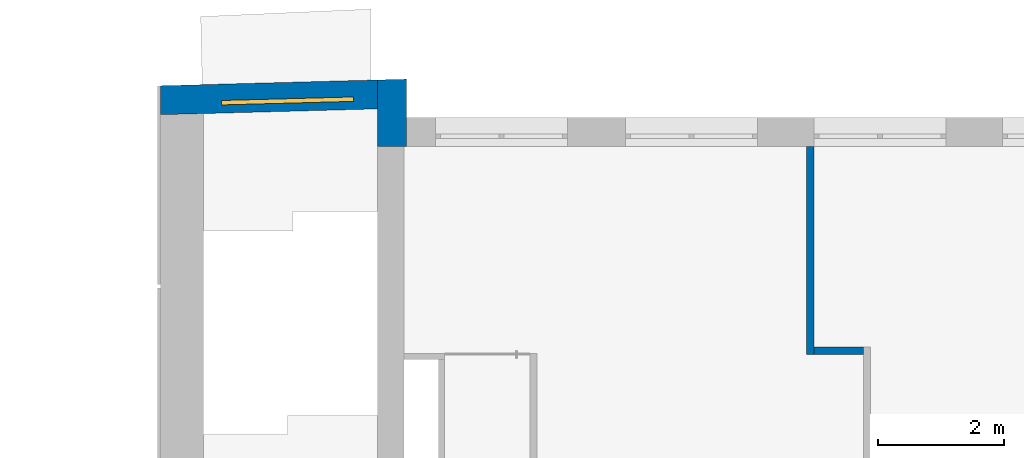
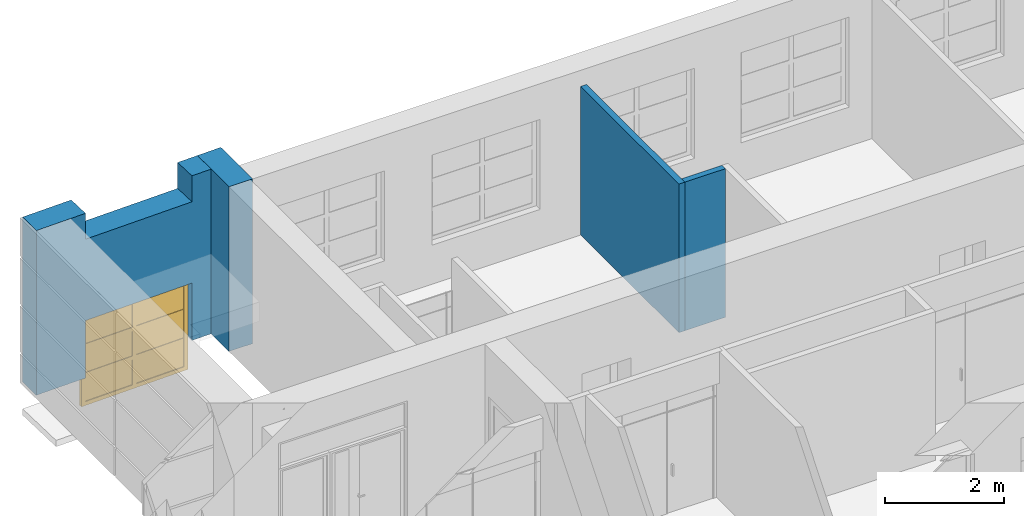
# One storey, part 45 of 66: 4 walls, 1 window, 3 openings.
"""IFC2X3 building model written with IfcOpenShell, lengths in millimetres."""

from ifc_helpers import new_model, entity, si_unit, converted_unit, derived_unit, direction, frame, frame_2d, origin, place, context, subcontext, project, spatial, polyline, rectangle, outline, extrude, face_set, surface_model, source, transform, mapped, material, material_list, layer, layer_set, layer_usage, type_object, type_shapes, element, fill, save


model = new_model("IFC2X3")

# Units and contexts
model_context = context("Model", 3, precision=0.01, world=origin(), true_north=direction((6.12303176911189e-17, 1.0)))
body_context = subcontext(model_context, "Body", "Model", "MODEL_VIEW")
ifc_project = project(units=[si_unit("LENGTHUNIT", "METRE", prefix="MILLI"), si_unit("AREAUNIT", "SQUARE_METRE"), si_unit("VOLUMEUNIT", "CUBIC_METRE"), converted_unit("PLANEANGLEUNIT", "DEGREE", entity("IfcRatioMeasure", 0.0174532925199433), si_unit("PLANEANGLEUNIT", "RADIAN"), dimensions=[0, 0, 0, 0, 0, 0, 0]), si_unit("MASSUNIT", "GRAM", prefix="KILO"), derived_unit("MASSDENSITYUNIT", [(si_unit("MASSUNIT", "GRAM", prefix="KILO"), 1), (si_unit("LENGTHUNIT", "METRE"), -3)]), si_unit("TIMEUNIT", "SECOND"), si_unit("FREQUENCYUNIT", "HERTZ"), si_unit("THERMODYNAMICTEMPERATUREUNIT", "DEGREE_CELSIUS"), derived_unit("THERMALTRANSMITTANCEUNIT", [(si_unit("MASSUNIT", "GRAM", prefix="KILO"), 1), (si_unit("THERMODYNAMICTEMPERATUREUNIT", "KELVIN"), -1), (si_unit("TIMEUNIT", "SECOND"), -3)]), derived_unit("VOLUMETRICFLOWRATEUNIT", [(si_unit("LENGTHUNIT", "METRE"), 3), (si_unit("TIMEUNIT", "SECOND"), -1)]), si_unit("ELECTRICCURRENTUNIT", "AMPERE"), si_unit("ELECTRICVOLTAGEUNIT", "VOLT"), si_unit("POWERUNIT", "WATT"), si_unit("FORCEUNIT", "NEWTON", prefix="KILO"), si_unit("ILLUMINANCEUNIT", "LUX"), si_unit("LUMINOUSFLUXUNIT", "LUMEN"), si_unit("LUMINOUSINTENSITYUNIT", "CANDELA"), derived_unit("USERDEFINED", [(si_unit("MASSUNIT", "GRAM", prefix="KILO"), -1), (si_unit("LENGTHUNIT", "METRE"), -2), (si_unit("TIMEUNIT", "SECOND"), 3), (si_unit("LUMINOUSFLUXUNIT", "LUMEN"), 1)]), derived_unit("LINEARVELOCITYUNIT", [(si_unit("LENGTHUNIT", "METRE"), 1), (si_unit("TIMEUNIT", "SECOND"), -1)]), si_unit("PRESSUREUNIT", "PASCAL"), derived_unit("USERDEFINED", [(si_unit("LENGTHUNIT", "METRE"), -2), (si_unit("MASSUNIT", "GRAM", prefix="KILO"), 1), (si_unit("TIMEUNIT", "SECOND"), -2)])], contexts=[model_context])

# Site, building, storey
site_placement = place(None, frame((-151.875543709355, 2715.0, 0.0)))
site = spatial("IfcSite", under=ifc_project, at=site_placement, Name="Surface", CompositionType="ELEMENT")
building_placement = place(site_placement, origin())
building = spatial("IfcBuilding", under=site, at=building_placement, CompositionType="ELEMENT")
storey_placement = place(building_placement, frame((0.0, 0.0, 3350.0)))
storey = spatial("IfcBuildingStorey", under=building, at=storey_placement, Name="2 korrus", CompositionType="ELEMENT", Elevation=3350.00000000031)

# Wall, openings, window
ifc_material_1 = material(Name="Brick, Common")
ifc_layer_1 = layer(ifc_material_1, 440.0)
ifc_material_2 = material(Name="__Kips GN13_tava")
ifc_layer_2 = layer(ifc_material_2, 20.0)
ifc_layer_set_1 = layer_set([ifc_layer_1, ifc_layer_2], Name="Basic Wall:VS-1")
ifc_layer_usage_1 = layer_usage(ifc_layer_set_1, "AXIS2", "NEGATIVE", 230.0)
wall_type_1 = type_object("IfcWallType", Name="Basic Wall:VS-1", PredefinedType="STANDARD", material=ifc_layer_set_1)
wall_1_placement = place(storey_placement, frame((1084.82025900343, 12886.4674488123, 0.0), z_axis=(0.0, 0.0, 1.0), x_axis=(0.999638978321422, 0.0268684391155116, 0.0)))
wall_1 = element("IfcWallStandardCase", 1, at=wall_1_placement, inside=storey, type_object=wall_type_1, material=ifc_layer_usage_1, Name="SEIN - 004", ObjectType="Basic Wall:VS-1", context=body_context, shape_type="SweptSolid", body=[
    extrude(outline(polyline([(3462.68398482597, 230.0), (12.363945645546, 230.0), (0.0, -230.0), (3450.32003918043, -230.0), (3462.68398482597, 230.0)])), origin(), (0.0, 0.0, 1.0), 3380.43203354),
])
opening_1_placement = place(wall_1_placement, origin())
element("IfcOpeningElement", 2, at=opening_1_placement, cuts=wall_1, Name="SEIN - 004", ObjectType="Opening", context=body_context, shape_type="SweptSolid", body=[
    extrude(rectangle(XDim=1850.0, YDim=2100.0, at=frame_2d((-5.11590769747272e-13, 0.0), x_axis=(1.0, 0.0))), frame((2022.05100957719, -490.0, 3773.03609848), z_axis=(0.0, 1.0, 0.0), x_axis=(0.0, 0.0, 1.0)), (0.0, 0.0, 1.0), 1180.0),
])
opening_2_placement = place(wall_1_placement, origin())
element("IfcOpeningElement", 3, at=opening_2_placement, cuts=wall_1, Name="SEIN - 004", ObjectType="Opening", context=body_context, shape_type="SweptSolid", body=[
    extrude(rectangle(XDim=1850.0, YDim=2100.0, at=frame_2d((5.6843418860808e-13, -3.41060513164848e-13), x_axis=(1.0, 0.0))), frame((2022.05100957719, -695.9, 3773.036098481), z_axis=(0.0, 1.0, 0.0), x_axis=(0.0, 0.0, -1.0)), (0.0, 0.0, 1.0), 1393.8),
])
opening_3_placement = place(wall_1_placement, frame((-1430.66788143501, -12852.6677276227, 0.0), z_axis=(0.0, 0.0, 1.0), x_axis=(0.999638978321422, -0.0268684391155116, 0.0)))
opening_3 = element("IfcOpeningElement", 4, at=opening_3_placement, cuts=wall_1, Name="SEIN - 004", ObjectType="Opening", context=body_context, shape_type="SweptSolid", body=[
    extrude(rectangle(XDim=1850.0, YDim=2100.0, at=frame_2d((2.8421709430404e-13, 1.13686837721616e-13), x_axis=(1.0, 0.0))), frame((3124.83901111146, 12245.1480382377, 254.53481674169), z_axis=(-0.0268684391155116, 0.999638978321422, 0.0), x_axis=(0.0, 0.0, -1.0)), (0.0, 0.0, 1.0), 1393.8),
])
ifc_material_3 = material(Name="Paint - Titanium White")
ifc_material_4 = material(Name="Paint - Dark Gray")
ifc_material_5 = material(Name="Glass - Clear Fast")
ifc_material_list_1 = material_list([ifc_material_3, ifc_material_4, ifc_material_5])
ifc_material_list_2 = material_list([ifc_material_3, ifc_material_4, ifc_material_5])
window_style = type_object("IfcWindowStyle", Name="Aken_1850x2100", ConstructionType="NOTDEFINED", OperationType="DOUBLE_PANEL_VERTICAL", ParameterTakesPrecedence=False, Sizeable=False, material=ifc_material_list_2)
shared_shape = source(origin(), body_context, "Body", "SurfaceModel", [
    surface_model("IfcFaceBasedSurfaceModel", [(80.0, 727.9, 1770.0), (80.0, 772.9, 1770.0), (0.0, 772.9, 1770.0), (0.0, 727.9, 1770.0), (80.0, 727.9, 80.0), (80.0, 772.9, 80.0), (80.0, 772.9, 1770.0), (80.0, 727.9, 1770.0), (80.0, 772.9, 1770.0), (80.0, 772.9, 80.0), (0.0, 772.9, 80.0), (0.0, 772.9, 1770.0), (0.0, 727.9, 1770.0), (0.0, 772.9, 1770.0), (0.0, 772.9, 80.0), (0.0, 727.9, 80.0), (80.0, 727.9, 1770.0), (0.0, 727.9, 1770.0), (0.0, 727.9, 80.0), (80.0, 727.9, 80.0), (0.0, 727.9, 80.0), (0.0, 772.9, 80.0), (80.0, 772.9, 80.0), (80.0, 727.9, 80.0), (2020.0, 727.9, 80.0), (2020.0, 772.9, 80.0), (2100.0, 772.9, 80.0), (2100.0, 727.9, 80.0), (2020.0, 727.9, 1770.0), (2020.0, 772.9, 1770.0), (2020.0, 772.9, 80.0), (2020.0, 727.9, 80.0), (2020.0, 772.9, 80.0), (2020.0, 772.9, 1770.0), (2100.0, 772.9, 1770.0), (2100.0, 772.9, 80.0), (2100.0, 727.9, 80.0), (2100.0, 772.9, 80.0), (2100.0, 772.9, 1770.0), (2100.0, 727.9, 1770.0), (2020.0, 727.9, 80.0), (2100.0, 727.9, 80.0), (2100.0, 727.9, 1770.0), (2020.0, 727.9, 1770.0), (2100.0, 727.9, 1770.0), (2100.0, 772.9, 1770.0), (2020.0, 772.9, 1770.0), (2020.0, 727.9, 1770.0), (1010.0, 727.9, 80.0), (1010.0, 772.9, 80.0), (1090.0, 772.9, 80.0), (1090.0, 727.9, 80.0), (1010.0, 727.9, 1770.0), (1010.0, 772.9, 1770.0), (1010.0, 772.9, 80.0), (1010.0, 727.9, 80.0), (1010.0, 772.9, 80.0), (1010.0, 772.9, 1770.0), (1090.0, 772.9, 1770.0), (1090.0, 772.9, 80.0), (1090.0, 727.9, 80.0), (1090.0, 772.9, 80.0), (1090.0, 772.9, 1770.0), (1090.0, 727.9, 1770.0), (1010.0, 727.9, 80.0), (1090.0, 727.9, 80.0), (1090.0, 727.9, 1770.0), (1010.0, 727.9, 1770.0), (1090.0, 727.9, 1770.0), (1090.0, 772.9, 1770.0), (1010.0, 772.9, 1770.0), (1010.0, 727.9, 1770.0), (80.0, 727.9, 80.0), (80.0, 772.9, 80.0), (0.0, 772.9, 80.0), (0.0, 727.9, 80.0), (1010.0, 727.9, 80.0), (1010.0, 772.9, 80.0), (80.0, 772.9, 80.0), (80.0, 727.9, 80.0), (80.0, 772.9, 80.0), (1010.0, 772.9, 80.0), (1090.0, 772.9, 80.0), (2020.0, 772.9, 80.0), (2100.0, 772.9, 80.0), (2100.0, 772.9, 0.0), (0.0, 772.9, 0.0), (0.0, 772.9, 80.0), (0.0, 727.9, 80.0), (0.0, 772.9, 80.0), (0.0, 772.9, 0.0), (0.0, 727.9, 0.0), (80.0, 727.9, 80.0), (0.0, 727.9, 80.0), (0.0, 727.9, 0.0), (2100.0, 727.9, 0.0), (2100.0, 727.9, 80.0), (2020.0, 727.9, 80.0), (1090.0, 727.9, 80.0), (1010.0, 727.9, 80.0), (1090.0, 727.9, 80.0), (1090.0, 772.9, 80.0), (1010.0, 772.9, 80.0), (1010.0, 727.9, 80.0), (2020.0, 727.9, 80.0), (2020.0, 772.9, 80.0), (1090.0, 772.9, 80.0), (1090.0, 727.9, 80.0), (2100.0, 727.9, 80.0), (2100.0, 772.9, 80.0), (2020.0, 772.9, 80.0), (2020.0, 727.9, 80.0), (2100.0, 727.9, 0.0), (2100.0, 772.9, 0.0), (2100.0, 772.9, 80.0), (2100.0, 727.9, 80.0), (0.0, 727.9, 0.0), (0.0, 772.9, 0.0), (2100.0, 772.9, 0.0), (2100.0, 727.9, 0.0), (1010.0, 727.9, 1770.0), (1010.0, 772.9, 1770.0), (1090.0, 772.9, 1770.0), (1090.0, 727.9, 1770.0), (80.0, 727.9, 1770.0), (80.0, 772.9, 1770.0), (1010.0, 772.9, 1770.0), (1010.0, 727.9, 1770.0), (1010.0, 772.9, 1770.0), (80.0, 772.9, 1770.0), (0.0, 772.9, 1770.0), (0.0, 772.9, 1850.0), (2100.0, 772.9, 1850.0), (2100.0, 772.9, 1770.0), (2020.0, 772.9, 1770.0), (1090.0, 772.9, 1770.0), (1090.0, 727.9, 1770.0), (1090.0, 772.9, 1770.0), (2020.0, 772.9, 1770.0), (2020.0, 727.9, 1770.0), (1010.0, 727.9, 1770.0), (1090.0, 727.9, 1770.0), (2020.0, 727.9, 1770.0), (2100.0, 727.9, 1770.0), (2100.0, 727.9, 1850.0), (0.0, 727.9, 1850.0), (0.0, 727.9, 1770.0), (80.0, 727.9, 1770.0), (0.0, 727.9, 1770.0), (0.0, 772.9, 1770.0), (80.0, 772.9, 1770.0), (80.0, 727.9, 1770.0), (0.0, 727.9, 1850.0), (0.0, 772.9, 1850.0), (0.0, 772.9, 1770.0), (0.0, 727.9, 1770.0), (2100.0, 727.9, 1850.0), (2100.0, 772.9, 1850.0), (0.0, 772.9, 1850.0), (0.0, 727.9, 1850.0), (2100.0, 727.9, 1770.0), (2100.0, 772.9, 1770.0), (2100.0, 772.9, 1850.0), (2100.0, 727.9, 1850.0), (2020.0, 727.9, 1770.0), (2020.0, 772.9, 1770.0), (2100.0, 772.9, 1770.0), (2100.0, 727.9, 1770.0), (80.0, 752.9, 590.0), (80.0, 762.9, 590.0), (1010.0, 762.9, 590.0), (1010.0, 752.9, 590.0), (80.0, 752.9, 670.0), (80.0, 762.9, 670.0), (80.0, 762.9, 590.0), (80.0, 752.9, 590.0), (80.0, 762.9, 590.0), (80.0, 762.9, 670.0), (1010.0, 762.9, 670.0), (1010.0, 762.9, 590.0), (1010.0, 752.9, 590.0), (1010.0, 762.9, 590.0), (1010.0, 762.9, 670.0), (1010.0, 752.9, 670.0), (80.0, 752.9, 590.0), (1010.0, 752.9, 590.0), (1010.0, 752.9, 670.0), (80.0, 752.9, 670.0), (1010.0, 752.9, 670.0), (1010.0, 762.9, 670.0), (80.0, 762.9, 670.0), (80.0, 752.9, 670.0), (80.0, 752.9, 1180.0), (80.0, 762.9, 1180.0), (1010.0, 762.9, 1180.0), (1010.0, 752.9, 1180.0), (80.0, 752.9, 1260.0), (80.0, 762.9, 1260.0), (80.0, 762.9, 1180.0), (80.0, 752.9, 1180.0), (80.0, 762.9, 1180.0), (80.0, 762.9, 1260.0), (1010.0, 762.9, 1260.0), (1010.0, 762.9, 1180.0), (1010.0, 752.9, 1180.0), (1010.0, 762.9, 1180.0), (1010.0, 762.9, 1260.0), (1010.0, 752.9, 1260.0), (80.0, 752.9, 1180.0), (1010.0, 752.9, 1180.0), (1010.0, 752.9, 1260.0), (80.0, 752.9, 1260.0), (1010.0, 752.9, 1260.0), (1010.0, 762.9, 1260.0), (80.0, 762.9, 1260.0), (80.0, 752.9, 1260.0), (1090.0, 752.9, 590.0), (1090.0, 762.9, 590.0), (2020.0, 762.9, 590.0), (2020.0, 752.9, 590.0), (1090.0, 752.9, 670.0), (1090.0, 762.9, 670.0), (1090.0, 762.9, 590.0), (1090.0, 752.9, 590.0), (1090.0, 762.9, 590.0), (1090.0, 762.9, 670.0), (2020.0, 762.9, 670.0), (2020.0, 762.9, 590.0), (2020.0, 752.9, 590.0), (2020.0, 762.9, 590.0), (2020.0, 762.9, 670.0), (2020.0, 752.9, 670.0), (1090.0, 752.9, 590.0), (2020.0, 752.9, 590.0), (2020.0, 752.9, 670.0), (1090.0, 752.9, 670.0), (2020.0, 752.9, 670.0), (2020.0, 762.9, 670.0), (1090.0, 762.9, 670.0), (1090.0, 752.9, 670.0), (1090.0, 752.9, 1180.0), (1090.0, 762.9, 1180.0), (2020.0, 762.9, 1180.0), (2020.0, 752.9, 1180.0), (1090.0, 752.9, 1260.0), (1090.0, 762.9, 1260.0), (1090.0, 762.9, 1180.0), (1090.0, 752.9, 1180.0), (1090.0, 762.9, 1180.0), (1090.0, 762.9, 1260.0), (2020.0, 762.9, 1260.0), (2020.0, 762.9, 1180.0), (2020.0, 752.9, 1180.0), (2020.0, 762.9, 1180.0), (2020.0, 762.9, 1260.0), (2020.0, 752.9, 1260.0), (1090.0, 752.9, 1180.0), (2020.0, 752.9, 1180.0), (2020.0, 752.9, 1260.0), (1090.0, 752.9, 1260.0), (2020.0, 752.9, 1260.0), (2020.0, 762.9, 1260.0), (1090.0, 762.9, 1260.0), (1090.0, 752.9, 1260.0)], [face_set([[[0, 1, 2, 3]]]), face_set([[[4, 5, 6, 7]]]), face_set([[[8, 9, 10, 11]]]), face_set([[[12, 13, 14, 15]]]), face_set([[[16, 17, 18, 19]]]), face_set([[[20, 21, 22, 23]]]), face_set([[[24, 25, 26, 27]]]), face_set([[[28, 29, 30, 31]]]), face_set([[[32, 33, 34, 35]]]), face_set([[[36, 37, 38, 39]]]), face_set([[[40, 41, 42, 43]]]), face_set([[[44, 45, 46, 47]]]), face_set([[[48, 49, 50, 51]]]), face_set([[[52, 53, 54, 55]]]), face_set([[[56, 57, 58, 59]]]), face_set([[[60, 61, 62, 63]]]), face_set([[[64, 65, 66, 67]]]), face_set([[[68, 69, 70, 71]]]), face_set([[[72, 73, 74, 75]]]), face_set([[[76, 77, 78, 79]]]), face_set([[[80, 81, 82, 83, 84, 85, 86, 87]]]), face_set([[[88, 89, 90, 91]]]), face_set([[[92, 93, 94, 95, 96, 97, 98, 99]]]), face_set([[[100, 101, 102, 103]]]), face_set([[[104, 105, 106, 107]]]), face_set([[[108, 109, 110, 111]]]), face_set([[[112, 113, 114, 115]]]), face_set([[[116, 117, 118, 119]]]), face_set([[[120, 121, 122, 123]]]), face_set([[[124, 125, 126, 127]]]), face_set([[[128, 129, 130, 131, 132, 133, 134, 135]]]), face_set([[[136, 137, 138, 139]]]), face_set([[[140, 141, 142, 143, 144, 145, 146, 147]]]), face_set([[[148, 149, 150, 151]]]), face_set([[[152, 153, 154, 155]]]), face_set([[[156, 157, 158, 159]]]), face_set([[[160, 161, 162, 163]]]), face_set([[[164, 165, 166, 167]]]), face_set([[[168, 169, 170, 171]]]), face_set([[[172, 173, 174, 175]]]), face_set([[[176, 177, 178, 179]]]), face_set([[[180, 181, 182, 183]]]), face_set([[[184, 185, 186, 187]]]), face_set([[[188, 189, 190, 191]]]), face_set([[[192, 193, 194, 195]]]), face_set([[[196, 197, 198, 199]]]), face_set([[[200, 201, 202, 203]]]), face_set([[[204, 205, 206, 207]]]), face_set([[[208, 209, 210, 211]]]), face_set([[[212, 213, 214, 215]]]), face_set([[[216, 217, 218, 219]]]), face_set([[[220, 221, 222, 223]]]), face_set([[[224, 225, 226, 227]]]), face_set([[[228, 229, 230, 231]]]), face_set([[[232, 233, 234, 235]]]), face_set([[[236, 237, 238, 239]]]), face_set([[[240, 241, 242, 243]]]), face_set([[[244, 245, 246, 247]]]), face_set([[[248, 249, 250, 251]]]), face_set([[[252, 253, 254, 255]]]), face_set([[[256, 257, 258, 259]]]), face_set([[[260, 261, 262, 263]]])]),
    surface_model("IfcFaceBasedSurfaceModel", [(80.0, 772.9, 1770.0), (80.0, 797.9, 1770.0), (0.0, 797.9, 1770.0), (0.0, 772.9, 1770.0), (80.0, 772.9, 80.0), (80.0, 797.9, 80.0), (80.0, 797.9, 1770.0), (80.0, 772.9, 1770.0), (80.0, 797.9, 1770.0), (80.0, 797.9, 80.0), (0.0, 797.9, 80.0), (0.0, 797.9, 1770.0), (0.0, 772.9, 1770.0), (0.0, 797.9, 1770.0), (0.0, 797.9, 80.0), (0.0, 772.9, 80.0), (80.0, 772.9, 1770.0), (0.0, 772.9, 1770.0), (0.0, 772.9, 80.0), (80.0, 772.9, 80.0), (0.0, 772.9, 80.0), (0.0, 797.9, 80.0), (80.0, 797.9, 80.0), (80.0, 772.9, 80.0), (2020.0, 772.9, 80.0), (2020.0, 797.9, 80.0), (2100.0, 797.9, 80.0), (2100.0, 772.9, 80.0), (2020.0, 772.9, 1770.0), (2020.0, 797.9, 1770.0), (2020.0, 797.9, 80.0), (2020.0, 772.9, 80.0), (2020.0, 797.9, 80.0), (2020.0, 797.9, 1770.0), (2100.0, 797.9, 1770.0), (2100.0, 797.9, 80.0), (2100.0, 772.9, 80.0), (2100.0, 797.9, 80.0), (2100.0, 797.9, 1770.0), (2100.0, 772.9, 1770.0), (2020.0, 772.9, 80.0), (2100.0, 772.9, 80.0), (2100.0, 772.9, 1770.0), (2020.0, 772.9, 1770.0), (2100.0, 772.9, 1770.0), (2100.0, 797.9, 1770.0), (2020.0, 797.9, 1770.0), (2020.0, 772.9, 1770.0), (1010.0, 772.9, 80.0), (1010.0, 797.9, 80.0), (1090.0, 797.9, 80.0), (1090.0, 772.9, 80.0), (1010.0, 772.9, 1770.0), (1010.0, 797.9, 1770.0), (1010.0, 797.9, 80.0), (1010.0, 772.9, 80.0), (1010.0, 797.9, 80.0), (1010.0, 797.9, 1770.0), (1090.0, 797.9, 1770.0), (1090.0, 797.9, 80.0), (1090.0, 772.9, 80.0), (1090.0, 797.9, 80.0), (1090.0, 797.9, 1770.0), (1090.0, 772.9, 1770.0), (1010.0, 772.9, 80.0), (1090.0, 772.9, 80.0), (1090.0, 772.9, 1770.0), (1010.0, 772.9, 1770.0), (1090.0, 772.9, 1770.0), (1090.0, 797.9, 1770.0), (1010.0, 797.9, 1770.0), (1010.0, 772.9, 1770.0), (80.0, 772.9, 80.0), (80.0, 797.9, 80.0), (0.0, 797.9, 80.0), (0.0, 772.9, 80.0), (1010.0, 772.9, 80.0), (1010.0, 797.9, 80.0), (80.0, 797.9, 80.0), (80.0, 772.9, 80.0), (80.0, 797.9, 80.0), (1010.0, 797.9, 80.0), (1090.0, 797.9, 80.0), (2020.0, 797.9, 80.0), (2100.0, 797.9, 80.0), (2100.0, 797.9, 0.0), (0.0, 797.9, 0.0), (0.0, 797.9, 80.0), (0.0, 772.9, 80.0), (0.0, 797.9, 80.0), (0.0, 797.9, 0.0), (0.0, 772.9, 0.0), (80.0, 772.9, 80.0), (0.0, 772.9, 80.0), (0.0, 772.9, 0.0), (2100.0, 772.9, 0.0), (2100.0, 772.9, 80.0), (2020.0, 772.9, 80.0), (1090.0, 772.9, 80.0), (1010.0, 772.9, 80.0), (1090.0, 772.9, 80.0), (1090.0, 797.9, 80.0), (1010.0, 797.9, 80.0), (1010.0, 772.9, 80.0), (2020.0, 772.9, 80.0), (2020.0, 797.9, 80.0), (1090.0, 797.9, 80.0), (1090.0, 772.9, 80.0), (2100.0, 772.9, 80.0), (2100.0, 797.9, 80.0), (2020.0, 797.9, 80.0), (2020.0, 772.9, 80.0), (2100.0, 772.9, 0.0), (2100.0, 797.9, 0.0), (2100.0, 797.9, 80.0), (2100.0, 772.9, 80.0), (0.0, 772.9, 0.0), (0.0, 797.9, 0.0), (2100.0, 797.9, 0.0), (2100.0, 772.9, 0.0), (1010.0, 772.9, 1770.0), (1010.0, 797.9, 1770.0), (1090.0, 797.9, 1770.0), (1090.0, 772.9, 1770.0), (80.0, 772.9, 1770.0), (80.0, 797.9, 1770.0), (1010.0, 797.9, 1770.0), (1010.0, 772.9, 1770.0), (1010.0, 797.9, 1770.0), (80.0, 797.9, 1770.0), (0.0, 797.9, 1770.0), (0.0, 797.9, 1850.0), (2100.0, 797.9, 1850.0), (2100.0, 797.9, 1770.0), (2020.0, 797.9, 1770.0), (1090.0, 797.9, 1770.0), (1090.0, 772.9, 1770.0), (1090.0, 797.9, 1770.0), (2020.0, 797.9, 1770.0), (2020.0, 772.9, 1770.0), (1010.0, 772.9, 1770.0), (1090.0, 772.9, 1770.0), (2020.0, 772.9, 1770.0), (2100.0, 772.9, 1770.0), (2100.0, 772.9, 1850.0), (0.0, 772.9, 1850.0), (0.0, 772.9, 1770.0), (80.0, 772.9, 1770.0), (0.0, 772.9, 1770.0), (0.0, 797.9, 1770.0), (80.0, 797.9, 1770.0), (80.0, 772.9, 1770.0), (0.0, 772.9, 1850.0), (0.0, 797.9, 1850.0), (0.0, 797.9, 1770.0), (0.0, 772.9, 1770.0), (2100.0, 772.9, 1850.0), (2100.0, 797.9, 1850.0), (0.0, 797.9, 1850.0), (0.0, 772.9, 1850.0), (2100.0, 772.9, 1770.0), (2100.0, 797.9, 1770.0), (2100.0, 797.9, 1850.0), (2100.0, 772.9, 1850.0), (2020.0, 772.9, 1770.0), (2020.0, 797.9, 1770.0), (2100.0, 797.9, 1770.0), (2100.0, 772.9, 1770.0), (80.0, 762.9, 590.0), (80.0, 792.9, 590.0), (1010.0, 792.9, 590.0), (1010.0, 762.9, 590.0), (80.0, 762.9, 670.0), (80.0, 792.9, 670.0), (80.0, 792.9, 590.0), (80.0, 762.9, 590.0), (80.0, 792.9, 590.0), (80.0, 792.9, 670.0), (1010.0, 792.9, 670.0), (1010.0, 792.9, 590.0), (1010.0, 762.9, 590.0), (1010.0, 792.9, 590.0), (1010.0, 792.9, 670.0), (1010.0, 762.9, 670.0), (80.0, 762.9, 590.0), (1010.0, 762.9, 590.0), (1010.0, 762.9, 670.0), (80.0, 762.9, 670.0), (1010.0, 762.9, 670.0), (1010.0, 792.9, 670.0), (80.0, 792.9, 670.0), (80.0, 762.9, 670.0), (80.0, 762.9, 1180.0), (80.0, 792.9, 1180.0), (1010.0, 792.9, 1180.0), (1010.0, 762.9, 1180.0), (80.0, 762.9, 1260.0), (80.0, 792.9, 1260.0), (80.0, 792.9, 1180.0), (80.0, 762.9, 1180.0), (80.0, 792.9, 1180.0), (80.0, 792.9, 1260.0), (1010.0, 792.9, 1260.0), (1010.0, 792.9, 1180.0), (1010.0, 762.9, 1180.0), (1010.0, 792.9, 1180.0), (1010.0, 792.9, 1260.0), (1010.0, 762.9, 1260.0), (80.0, 762.9, 1180.0), (1010.0, 762.9, 1180.0), (1010.0, 762.9, 1260.0), (80.0, 762.9, 1260.0), (1010.0, 762.9, 1260.0), (1010.0, 792.9, 1260.0), (80.0, 792.9, 1260.0), (80.0, 762.9, 1260.0), (1090.0, 762.9, 590.0), (1090.0, 792.9, 590.0), (2020.0, 792.9, 590.0), (2020.0, 762.9, 590.0), (1090.0, 762.9, 670.0), (1090.0, 792.9, 670.0), (1090.0, 792.9, 590.0), (1090.0, 762.9, 590.0), (1090.0, 792.9, 590.0), (1090.0, 792.9, 670.0), (2020.0, 792.9, 670.0), (2020.0, 792.9, 590.0), (2020.0, 762.9, 590.0), (2020.0, 792.9, 590.0), (2020.0, 792.9, 670.0), (2020.0, 762.9, 670.0), (1090.0, 762.9, 590.0), (2020.0, 762.9, 590.0), (2020.0, 762.9, 670.0), (1090.0, 762.9, 670.0), (2020.0, 762.9, 670.0), (2020.0, 792.9, 670.0), (1090.0, 792.9, 670.0), (1090.0, 762.9, 670.0), (1090.0, 762.9, 1180.0), (1090.0, 792.9, 1180.0), (2020.0, 792.9, 1180.0), (2020.0, 762.9, 1180.0), (1090.0, 762.9, 1260.0), (1090.0, 792.9, 1260.0), (1090.0, 792.9, 1180.0), (1090.0, 762.9, 1180.0), (1090.0, 792.9, 1180.0), (1090.0, 792.9, 1260.0), (2020.0, 792.9, 1260.0), (2020.0, 792.9, 1180.0), (2020.0, 762.9, 1180.0), (2020.0, 792.9, 1180.0), (2020.0, 792.9, 1260.0), (2020.0, 762.9, 1260.0), (1090.0, 762.9, 1180.0), (2020.0, 762.9, 1180.0), (2020.0, 762.9, 1260.0), (1090.0, 762.9, 1260.0), (2020.0, 762.9, 1260.0), (2020.0, 792.9, 1260.0), (1090.0, 792.9, 1260.0), (1090.0, 762.9, 1260.0)], [face_set([[[0, 1, 2, 3]]]), face_set([[[4, 5, 6, 7]]]), face_set([[[8, 9, 10, 11]]]), face_set([[[12, 13, 14, 15]]]), face_set([[[16, 17, 18, 19]]]), face_set([[[20, 21, 22, 23]]]), face_set([[[24, 25, 26, 27]]]), face_set([[[28, 29, 30, 31]]]), face_set([[[32, 33, 34, 35]]]), face_set([[[36, 37, 38, 39]]]), face_set([[[40, 41, 42, 43]]]), face_set([[[44, 45, 46, 47]]]), face_set([[[48, 49, 50, 51]]]), face_set([[[52, 53, 54, 55]]]), face_set([[[56, 57, 58, 59]]]), face_set([[[60, 61, 62, 63]]]), face_set([[[64, 65, 66, 67]]]), face_set([[[68, 69, 70, 71]]]), face_set([[[72, 73, 74, 75]]]), face_set([[[76, 77, 78, 79]]]), face_set([[[80, 81, 82, 83, 84, 85, 86, 87]]]), face_set([[[88, 89, 90, 91]]]), face_set([[[92, 93, 94, 95, 96, 97, 98, 99]]]), face_set([[[100, 101, 102, 103]]]), face_set([[[104, 105, 106, 107]]]), face_set([[[108, 109, 110, 111]]]), face_set([[[112, 113, 114, 115]]]), face_set([[[116, 117, 118, 119]]]), face_set([[[120, 121, 122, 123]]]), face_set([[[124, 125, 126, 127]]]), face_set([[[128, 129, 130, 131, 132, 133, 134, 135]]]), face_set([[[136, 137, 138, 139]]]), face_set([[[140, 141, 142, 143, 144, 145, 146, 147]]]), face_set([[[148, 149, 150, 151]]]), face_set([[[152, 153, 154, 155]]]), face_set([[[156, 157, 158, 159]]]), face_set([[[160, 161, 162, 163]]]), face_set([[[164, 165, 166, 167]]]), face_set([[[168, 169, 170, 171]]]), face_set([[[172, 173, 174, 175]]]), face_set([[[176, 177, 178, 179]]]), face_set([[[180, 181, 182, 183]]]), face_set([[[184, 185, 186, 187]]]), face_set([[[188, 189, 190, 191]]]), face_set([[[192, 193, 194, 195]]]), face_set([[[196, 197, 198, 199]]]), face_set([[[200, 201, 202, 203]]]), face_set([[[204, 205, 206, 207]]]), face_set([[[208, 209, 210, 211]]]), face_set([[[212, 213, 214, 215]]]), face_set([[[216, 217, 218, 219]]]), face_set([[[220, 221, 222, 223]]]), face_set([[[224, 225, 226, 227]]]), face_set([[[228, 229, 230, 231]]]), face_set([[[232, 233, 234, 235]]]), face_set([[[236, 237, 238, 239]]]), face_set([[[240, 241, 242, 243]]]), face_set([[[244, 245, 246, 247]]]), face_set([[[248, 249, 250, 251]]]), face_set([[[252, 253, 254, 255]]]), face_set([[[256, 257, 258, 259]]]), face_set([[[260, 261, 262, 263]]])]),
    surface_model("IfcFaceBasedSurfaceModel", [(1010.0, 762.9, 80.0), (1010.0, 762.9, 590.0), (80.0, 762.9, 590.0), (80.0, 762.9, 80.0), (1010.0, 782.9, 80.0), (80.0, 782.9, 80.0), (80.0, 782.9, 590.0), (1010.0, 782.9, 590.0), (1010.0, 762.9, 670.0), (1010.0, 762.9, 1180.0), (80.0, 762.9, 1180.0), (80.0, 762.9, 670.0), (1010.0, 782.9, 670.0), (80.0, 782.9, 670.0), (80.0, 782.9, 1180.0), (1010.0, 782.9, 1180.0), (1010.0, 762.9, 1260.0), (1010.0, 762.9, 1770.0), (80.0, 762.9, 1770.0), (80.0, 762.9, 1260.0), (1010.0, 782.9, 1260.0), (80.0, 782.9, 1260.0), (80.0, 782.9, 1770.0), (1010.0, 782.9, 1770.0), (2020.0, 762.9, 80.0), (2020.0, 762.9, 590.0), (1090.0, 762.9, 590.0), (1090.0, 762.9, 80.0), (2020.0, 782.9, 80.0), (1090.0, 782.9, 80.0), (1090.0, 782.9, 590.0), (2020.0, 782.9, 590.0), (2020.0, 762.9, 670.0), (2020.0, 762.9, 1180.0), (1090.0, 762.9, 1180.0), (1090.0, 762.9, 670.0), (2020.0, 782.9, 670.0), (1090.0, 782.9, 670.0), (1090.0, 782.9, 1180.0), (2020.0, 782.9, 1180.0), (2020.0, 762.9, 1260.0), (2020.0, 762.9, 1770.0), (1090.0, 762.9, 1770.0), (1090.0, 762.9, 1260.0), (2020.0, 782.9, 1260.0), (1090.0, 782.9, 1260.0), (1090.0, 782.9, 1770.0), (2020.0, 782.9, 1770.0)], [face_set([[[0, 1, 2, 3]]]), face_set([[[4, 5, 6, 7]]]), face_set([[[8, 9, 10, 11]]]), face_set([[[12, 13, 14, 15]]]), face_set([[[16, 17, 18, 19]]]), face_set([[[20, 21, 22, 23]]]), face_set([[[24, 25, 26, 27]]]), face_set([[[28, 29, 30, 31]]]), face_set([[[32, 33, 34, 35]]]), face_set([[[36, 37, 38, 39]]]), face_set([[[40, 41, 42, 43]]]), face_set([[[44, 45, 46, 47]]])]),
])
type_shapes(window_style, [shared_shape])
window_placement = place(opening_3_placement, frame((4137.01070790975, 13666.6567072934, -670.465183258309), z_axis=(0.0, 0.0, 1.0), x_axis=(-0.999638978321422, -0.0268684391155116, 0.0)))
window = element("IfcWindow", 5, at=window_placement, inside=storey, type_object=window_style, material=ifc_material_list_1, Name="Aken_1850x2100:Aken_1850x2100", ObjectType="Aken_1850x2100", OverallHeight=2100.0, OverallWidth=1850.0, context=body_context, shape_type="MappedRepresentation", body=[
    mapped(shared_shape, transform((0.0, 0.0, 0.0), scale=1.0)),
])
fill(opening_3, window)

# Walls
ifc_layer_usage_2 = layer_usage(ifc_layer_set_1, "AXIS2", "NEGATIVE", 230.0)
wall_2_placement = place(storey_placement, frame((4770.07439884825, 13221.7852732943, 0.0), z_axis=(0.0, 0.0, 1.0), x_axis=(0.0, -1.0, 0.0)))
element("IfcWallStandardCase", 6, at=wall_2_placement, inside=storey, type_object=wall_type_1, material=ifc_layer_usage_2, Name="SEIN - 003", ObjectType="Basic Wall:VS-1", context=body_context, shape_type="SweptSolid", body=[
    extrude(outline(polyline([(1071.7852732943, -230.0), (1071.7852732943, 230.0), (611.785273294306, 230.0), (0.0, 230.0), (12.3639456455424, -230.0), (472.530075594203, -230.0), (1071.7852732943, -230.0)])), origin(), (0.0, 0.0, 1.0), 3380.43),
])
ifc_layer_3 = layer(ifc_material_2, 12.5)
ifc_layer_4 = layer(ifc_material_2, 12.5)
ifc_material_6 = material(Name="__Soojustus EPS")
ifc_layer_5 = layer(ifc_material_6, 66.0)
ifc_layer_6 = layer(ifc_material_2, 12.5)
ifc_layer_7 = layer(ifc_material_2, 12.5)
ifc_layer_set_2 = layer_set([ifc_layer_3, ifc_layer_4, ifc_layer_5, ifc_layer_6, ifc_layer_7], Name="Basic Wall:SS-3_Kipssein tava ruumide vahel")
ifc_layer_usage_3 = layer_usage(ifc_layer_set_2, "AXIS2", "NEGATIVE", 58.0)
wall_type_2 = type_object("IfcWallType", Name="Basic Wall:SS-3_Kipssein tava ruumide vahel", PredefinedType="STANDARD", material=ifc_layer_set_2)
wall_3_placement = place(storey_placement, frame((11424.8493553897, 12150.0, 0.0), z_axis=(0.0, 0.0, 1.0), x_axis=(0.0, -1.0, 0.0)))
element("IfcWallStandardCase", 7, at=wall_3_placement, inside=storey, type_object=wall_type_2, material=ifc_layer_usage_3, Name="Basic Wall:SS-3_Kipssein tava ruumide vahel", ObjectType="Basic Wall:SS-3_Kipssein tava ruumide vahel", context=body_context, shape_type="SweptSolid", body=[
    extrude(rectangle(XDim=3306.00000000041, YDim=116.0, at=frame_2d((1653.00000000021, -3.33955085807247e-13), x_axis=(-1.0, 0.0))), origin(), (0.0, 0.0, 1.0), 3050.0),
])
ifc_layer_usage_4 = layer_usage(ifc_layer_set_2, "AXIS2", "POSITIVE", -58.0)
wall_4_placement = place(storey_placement, frame((11482.8493553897, 8902.0, 0.0)))
element("IfcWallStandardCase", 8, at=wall_4_placement, inside=storey, type_object=wall_type_2, material=ifc_layer_usage_4, Name="Basic Wall:SS-3_Kipssein tava ruumide vahel", ObjectType="Basic Wall:SS-3_Kipssein tava ruumide vahel", context=body_context, shape_type="SweptSolid", body=[
    extrude(rectangle(XDim=787.996545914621, YDim=116.0, at=frame_2d((393.998272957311, -1.74082970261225e-13), x_axis=(-1.0, 0.0))), origin(), (0.0, 0.0, 1.0), 3050.0),
])

save(model, "model.ifc")
